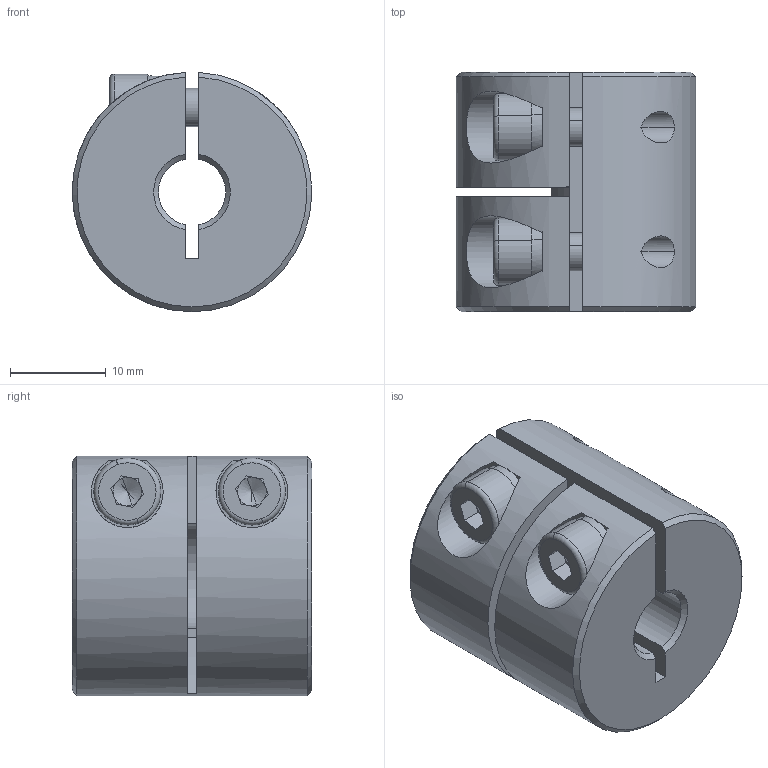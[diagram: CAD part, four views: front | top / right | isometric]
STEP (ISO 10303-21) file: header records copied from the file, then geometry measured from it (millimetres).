
FILE_DESCRIPTION (( 'STEP AP203' ), '1' );
FILE_NAME ('LL-B-D25L25-7-11.STEP', '2021-11-05T06:36:11', ( '' ), ( '' ), 'SwSTEP 2.0', 'SolidWorks 2018', '' );
FILE_SCHEMA (( 'CONFIG_CONTROL_DESIGN' ));
Length unit declared in the file: millimetre
Products named in the file (1): LL-B-D25L25-7-11
Bounding box: 24.99 x 25 x 24.98 mm (x, y, z)
Volume: 9833.3 mm3; surface area: 4952.4 mm2
Topology: 1 solids, 1 shells, 104 faces, 270 edges, 170 vertices
Faces by surface type: plane 52, cylinder 37, cone 11, torus 4
Entity records: 3471 total; most frequent: CARTESIAN_POINT 815, DIRECTION 560, ORIENTED_EDGE 532, EDGE_CURVE 266, AXIS2_PLACEMENT_3D 215, VERTEX_POINT 170, VECTOR 130, LINE 130
